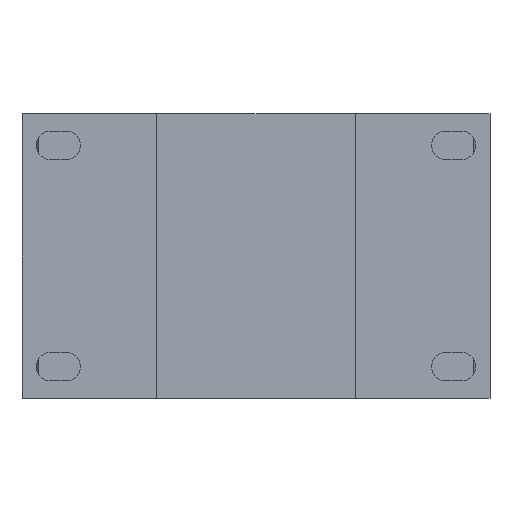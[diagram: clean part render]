
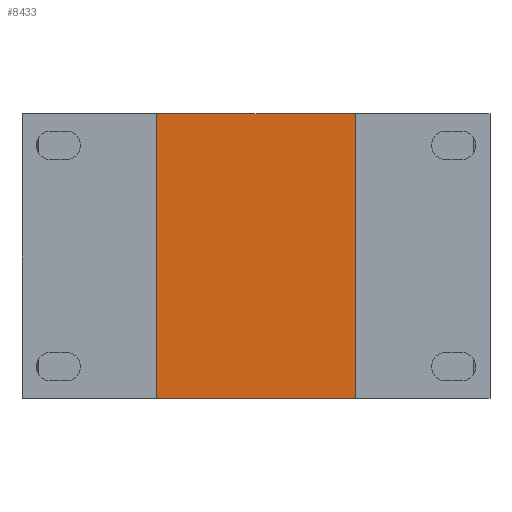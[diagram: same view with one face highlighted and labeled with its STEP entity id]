
A CAD part, front view. The second image highlights one B-rep face of the part: STEP entity #8433.
In plain terms, the highlighted planar face has unit normal (0, -1, 0).
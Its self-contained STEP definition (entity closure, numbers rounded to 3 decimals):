
#1729 = VERTEX_POINT ( 'NONE', #9579 ) ;
#1734 = VERTEX_POINT ( 'NONE', #9572 ) ;
#1735 = VERTEX_POINT ( 'NONE', #9573 ) ;
#1737 = VERTEX_POINT ( 'NONE', #9570 ) ;
#2348 = FACE_OUTER_BOUND ( 'NONE', #8704, .T. ) ;
#3545 = ORIENTED_EDGE ( 'NONE', *, *, #7114, .T. ) ;
#3546 = ORIENTED_EDGE ( 'NONE', *, *, #7169, .T. ) ;
#3547 = ORIENTED_EDGE ( 'NONE', *, *, #7016, .T. ) ;
#3548 = ORIENTED_EDGE ( 'NONE', *, *, #7062, .T. ) ;
#3759 = VECTOR ( 'NONE', #10430, 1000. ) ;
#3760 = LINE ( 'NONE', #10433, #3759 ) ;
#3868 = LINE ( 'NONE', #10308, #3869 ) ;
#3869 = VECTOR ( 'NONE', #10309, 1000. ) ;
#3964 = VECTOR ( 'NONE', #10061, 1000. ) ;
#3965 = LINE ( 'NONE', #10060, #3964 ) ;
#4048 = VECTOR ( 'NONE', #10151, 1000. ) ;
#4049 = LINE ( 'NONE', #10150, #4048 ) ;
#4373 = PLANE ( 'NONE',  #8144 ) ;
#4472 = CARTESIAN_POINT ( 'NONE',  ( -17.3, 4., 22.5 ) ) ;
#4473 = DIRECTION ( 'NONE',  ( 0., -1., 0. ) ) ;
#4474 = DIRECTION ( 'NONE',  ( 0., 0., -1. ) ) ;
#7016 = EDGE_CURVE ( 'NONE', #1734, #1737, #4049, .T. ) ;
#7062 = EDGE_CURVE ( 'NONE', #1729, #1734, #3965, .T. ) ;
#7114 = EDGE_CURVE ( 'NONE', #1735, #1729, #3868, .T. ) ;
#7169 = EDGE_CURVE ( 'NONE', #1737, #1735, #3760, .T. ) ;
#8144 = AXIS2_PLACEMENT_3D ( 'NONE', #4472, #4473, #4474 ) ;
#8433 = ADVANCED_FACE ( 'NONE', ( #2348 ), #4373, .T. ) ;
#8704 = EDGE_LOOP ( 'NONE', ( #3545, #3548, #3547, #3546 ) ) ;
#9570 = CARTESIAN_POINT ( 'NONE',  ( 17.3, 4., -22.5 ) ) ;
#9572 = CARTESIAN_POINT ( 'NONE',  ( -17.3, 4., -22.5 ) ) ;
#9573 = CARTESIAN_POINT ( 'NONE',  ( 17.3, 4., 22.5 ) ) ;
#9579 = CARTESIAN_POINT ( 'NONE',  ( -17.3, 4., 22.5 ) ) ;
#10060 = CARTESIAN_POINT ( 'NONE',  ( -17.3, 4., 22.5 ) ) ;
#10061 = DIRECTION ( 'NONE',  ( 0., 0., -1. ) ) ;
#10150 = CARTESIAN_POINT ( 'NONE',  ( 0., 4., -22.5 ) ) ;
#10151 = DIRECTION ( 'NONE',  ( 1., 0., 0. ) ) ;
#10308 = CARTESIAN_POINT ( 'NONE',  ( -17.3, 4., 22.5 ) ) ;
#10309 = DIRECTION ( 'NONE',  ( -1., 0., 0. ) ) ;
#10430 = DIRECTION ( 'NONE',  ( 0., 0., 1. ) ) ;
#10433 = CARTESIAN_POINT ( 'NONE',  ( 17.3, 4., 22.5 ) ) ;
